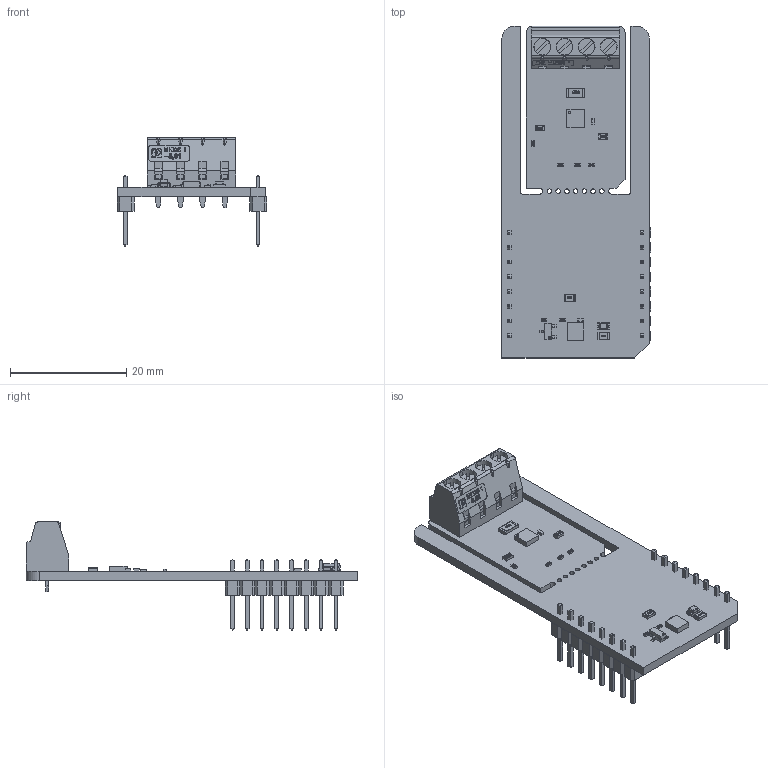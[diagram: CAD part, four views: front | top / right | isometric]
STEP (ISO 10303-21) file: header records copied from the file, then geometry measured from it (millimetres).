
FILE_DESCRIPTION(('Open CASCADE Model'),'2;1');
FILE_NAME('Open CASCADE Shape Model','2025-12-01T09:48:32',('Author'),( 'Open CASCADE'),'Open CASCADE STEP processor 6.8','Open CASCADE 6.8' ,'Unknown');
FILE_SCHEMA(('AUTOMOTIVE_DESIGN { 1 0 10303 214 1 1 1 1 }'));
Length unit declared in the file: millimetre
Products named in the file (54): PCB; Board; U2; -1818290776; Extruded; 1168116624; Cylinder; R11; User_Library-R_0402; R10; CN1; 1727036; Open CASCADE STEP translator 6.8 1.5.1.1; Open CASCADE STEP translator 6.8 1.5.1.2; Open CASCADE STEP translator 6.8 1.5.1.3; Open CASCADE STEP translator 6.8 1.5.1.4; Open CASCADE STEP translator 6.8 1.5.1.5; Open CASCADE STEP translator 6.8 1.5.1.6; Open CASCADE STEP translator 6.8 1.5.1.7; Open CASCADE STEP translator 6.8 1.5.1.8; Open CASCADE STEP translator 6.8 1.5.1.9; Open CASCADE STEP translator 6.8 1.5.1.10; Open CASCADE STEP translator 6.8 1.5.1.11; Open CASCADE STEP translator 6.8 1.5.1.12; Open CASCADE STEP translator 6.8 1.5.1.13; JP3; User_Library-R_0603; R1; User_Library-R_0805; LD1; led_0805_green; R2; C1; User_Library-SMD_CAPACITOR0402; R4; Q1; SOT23-3; U1; 1185484968; MBD1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
Assembly tree (63 placements, depth 7):
  PCB
    Board
    U2
      -1818290776
        Extruded
      1168116624
        Cylinder
    R11
      User_Library-R_0402
    R10
      User_Library-R_0402
    CN1
      1727036
        Open CASCADE STEP translator 6.8 1.5.1.1
        Open CASCADE STEP translator 6.8 1.5.1.2
        Open CASCADE STEP translator 6.8 1.5.1.3
        Open CASCADE STEP translator 6.8 1.5.1.4
        Open CASCADE STEP translator 6.8 1.5.1.5
        Open CASCADE STEP translator 6.8 1.5.1.6
        Open CASCADE STEP translator 6.8 1.5.1.7
        Open CASCADE STEP translator 6.8 1.5.1.8
        Open CASCADE STEP translator 6.8 1.5.1.9
        Open CASCADE STEP translator 6.8 1.5.1.10
        Open CASCADE STEP translator 6.8 1.5.1.11
        Open CASCADE STEP translator 6.8 1.5.1.12
        Open CASCADE STEP translator 6.8 1.5.1.13
    JP3
      User_Library-R_0603
    R1
      User_Library-R_0805
    LD1
      led_0805_green
    R2
      User_Library-R_0402
    C1
      User_Library-SMD_CAPACITOR0402
    R4
      User_Library-R_0402
    Q1
      SOT23-3
    U1
      1185484968
        Extruded
    MBD1
      Header_1x8  x2
        PCB
          Free-Models
            1240637040  x2
              User_Library-PinHeaderX5-1_PinHeaderX5_Body_1
              User_Library-PinHeaderX5-1_PinHeaderX5_Pins_1
    JP1
      User_Library-R_0805
    C2
      User_Library-SMD_CAPACITOR0402
    R6
      User_Library-R_0402
    R7
      User_Library-R_0402
    R9
      User_Library-R_1206
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Bounding box: 25.78 x 57.15 x 18.64 mm (x, y, z)
Volume: 3272.9 mm3; surface area: 6546.8 mm2
Topology: 73 solids, 73 shells, 2602 faces, 6793 edges, 4407 vertices
Faces by surface type: plane 1929, bspline 377, cylinder 266, sphere 30
Full cylindrical faces by diameter (mm): 0.4 x1, 0.8 x7
Entity records: 79292 total; most frequent: CARTESIAN_POINT 21188, ORIENTED_EDGE 8400, DIRECTION 7132, EDGE_CURVE 4200, PRESENTATION_STYLE_ASSIGNMENT 3577, OVER_RIDING_STYLED_ITEM 3429, LINE 3278, VECTOR 3278
